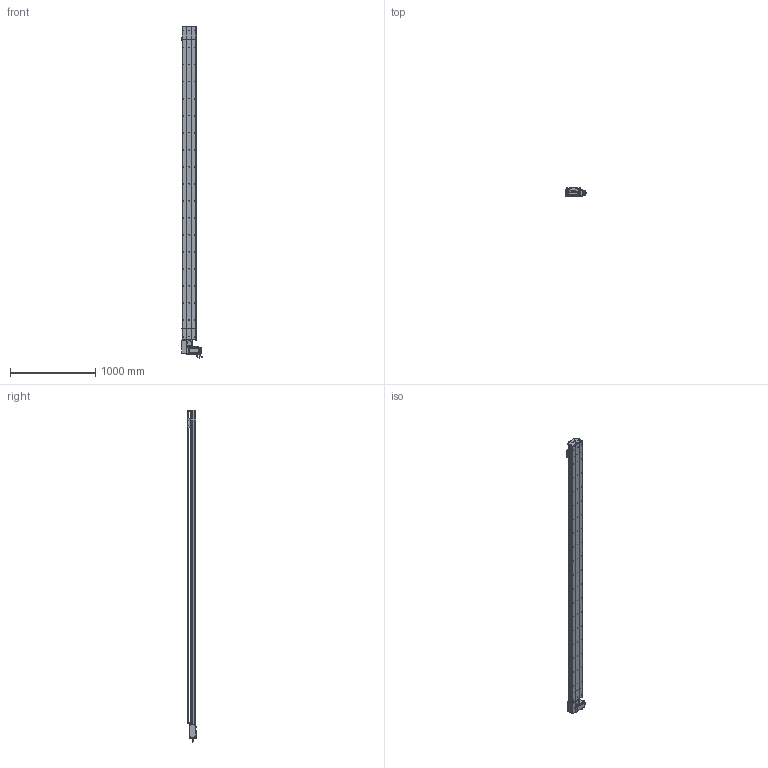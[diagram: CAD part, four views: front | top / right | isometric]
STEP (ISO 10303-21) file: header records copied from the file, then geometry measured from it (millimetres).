
FILE_DESCRIPTION (( 'STEP AP214' ), '1' );
FILE_NAME ('D17 TBN RH S3400.STEP', '2010-06-30T13:53:27', ( 'Conseil Régional Haute-Normandie' ), ( 'Conseil Régional Haute-Normandie' ), 'SwSTEP 2.0', 'SolidWorks 2010', '' );
FILE_SCHEMA (( 'AUTOMOTIVE_DESIGN' ));
Length unit declared in the file: millimetre
Products named in the file (40): D17 TBN RH S3400; plaque de  bout head D17B RH_Default; corpl head D17 _Default; Head RH D17B_Default; course 3400 D17B_Default; couvercle D17B head_Default; couvercle D17B course L3400_Default; Couroie+ rail D17 Course 3400 ; corp D17B 3400_Default; chariot D17 TBN; vis M5 L25_Default; vis M5 L12_Default; guide D17; Chariot D17 TBN; couvercle D17B_Default; Couroie tail D17B_Default; vis M5 L8 90°_Default; poulie tail_Default; vis M5 L5_Default; cache D17_Default; Arbre+rail head D17B; Moteur motionking 90BLDC125A-640; couroie head D17_Default; poulie head_Default; Conecteur2_Default; codeur 90BLDC125-640; corps 90BLDC125A-640; avant 90BLDC125A-640; Plaque racord D17_Default; vis M5 L70_Default; Conecteur_Default; cache arbre D17_Default; Vis M5 L16-2_Default; vis M5 L16_Default; corpl tail D17B_Default; Tail D17B_Default; Renvoi RH_Default; plaque de  bout tail D17B_Default; Rail D17B; tete d''axe poulie D17B
Assembly tree (66 placements, depth 4):
  D17 TBN RH S3400
    Tail D17B_Default
      plaque de  bout tail D17B_Default
      vis M5 L25_Default  x2
      vis M5 L12_Default  x4
      vis M5 L8 90°_Default  x2
      poulie tail_Default
      couvercle D17B_Default
      corpl tail D17B_Default
      tete d''axe poulie D17B
      Rail D17B
      Couroie tail D17B_Default
    Head RH D17B_Default
      couvercle D17B head_Default
      couroie head D17_Default
      vis M5 L25_Default  x2
      vis M5 L5_Default  x4
      corpl head D17 _Default
      Renvoi RH_Default
      Vis M5 L16-2_Default  x4
      vis M5 L70_Default  x4
      cache arbre D17_Default
      vis M5 L16_Default  x2
      poulie head_Default
      vis M5 L12_Default  x8
      Plaque racord D17_Default
      cache D17_Default  x2
      Arbre+rail head D17B
      plaque de  bout head D17B RH_Default
      Moteur motionking 90BLDC125A-640
        corps 90BLDC125A-640
        codeur 90BLDC125-640
        avant 90BLDC125A-640
        Conecteur_Default
        Conecteur2_Default
    chariot D17 TBN
      Chariot D17 TBN
      guide D17  x2
    course 3400 D17B_Default
      corp D17B 3400_Default
      couvercle D17B course L3400_Default
      Couroie+ rail D17 Course 3400 
Bounding box: 245.2 x 105.65 x 3900.95 mm (x, y, z)
Volume: 21388126.6 mm3; surface area: 6274158.9 mm2
Topology: 89 solids, 89 shells, 2675 faces, 6913 edges, 4454 vertices
Faces by surface type: plane 1533, cylinder 845, bspline 136, cone 80, torus 77, sphere 4
Entity records: 87419 total; most frequent: CARTESIAN_POINT 25831, ORIENTED_EDGE 10998, DIRECTION 10372, EDGE_CURVE 5499, VERTEX_POINT 3598, LINE 3554, VECTOR 3554, AXIS2_PLACEMENT_3D 3409
